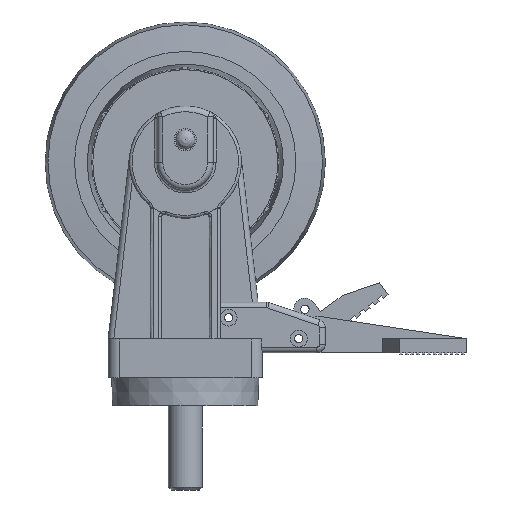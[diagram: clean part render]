
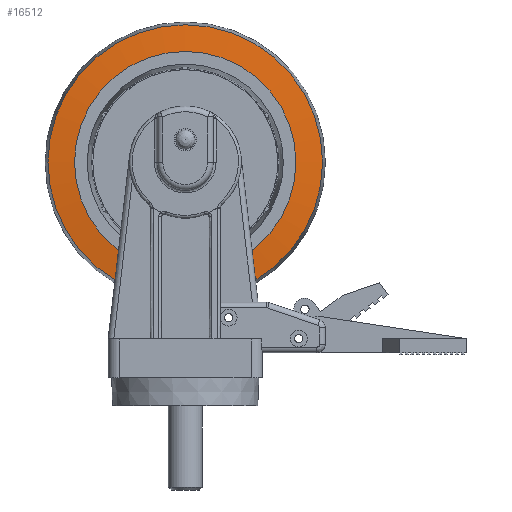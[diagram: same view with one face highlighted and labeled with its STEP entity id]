
A CAD part, front view. The second image highlights one B-rep face of the part: STEP entity #16512.
In plain terms, the highlighted conical face has half-angle 83.991 degrees and reference radius 44.25 mm.
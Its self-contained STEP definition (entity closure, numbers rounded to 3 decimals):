
#16478=CARTESIAN_POINT('',(0.,-13.75,37.));
#16479=VERTEX_POINT('',#16478);
#16480=CARTESIAN_POINT('',(0.,-13.75,86.0));
#16481=DIRECTION('',(0.0,-1.0,0.0));
#16482=DIRECTION('',(0.0,0.0,-1.0));
#16483=AXIS2_PLACEMENT_3D('',#16480,#16481,#16482);
#16484=CIRCLE('',#16483,49.);
#16485=EDGE_CURVE('',#16479,#16479,#16484,.T.);
#16493=CARTESIAN_POINT('',(0.,-14.25,86.0));
#16494=DIRECTION('',(0.,1.0,0.));
#16495=DIRECTION('',(0.0,0.0,-1.0));
#16496=AXIS2_PLACEMENT_3D('',#16493,#16494,#16495);
#16497=CONICAL_SURFACE('',#16496,44.25,83.991);
#16498=CARTESIAN_POINT('',(0.,-14.75,46.5));
#16499=VERTEX_POINT('',#16498);
#16500=CARTESIAN_POINT('',(0.,-14.75,86.0));
#16501=DIRECTION('',(0.0,-1.0,0.0));
#16502=DIRECTION('',(0.0,0.0,-1.0));
#16503=AXIS2_PLACEMENT_3D('',#16500,#16501,#16502);
#16504=CIRCLE('',#16503,39.5);
#16505=EDGE_CURVE('',#16499,#16499,#16504,.T.);
#16506=ORIENTED_EDGE('',*,*,#16505,.F.);
#16507=EDGE_LOOP('',(#16506));
#16508=FACE_OUTER_BOUND('',#16507,.T.);
#16509=ORIENTED_EDGE('',*,*,#16485,.T.);
#16510=EDGE_LOOP('',(#16509));
#16511=FACE_BOUND('',#16510,.T.);
#16512=ADVANCED_FACE('',(#16508,#16511),#16497,.T.);
